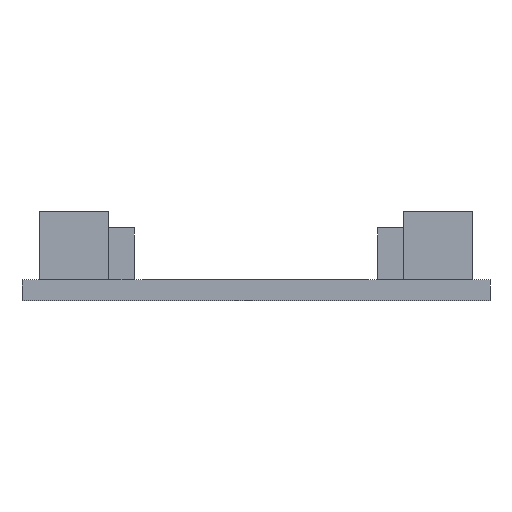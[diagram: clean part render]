
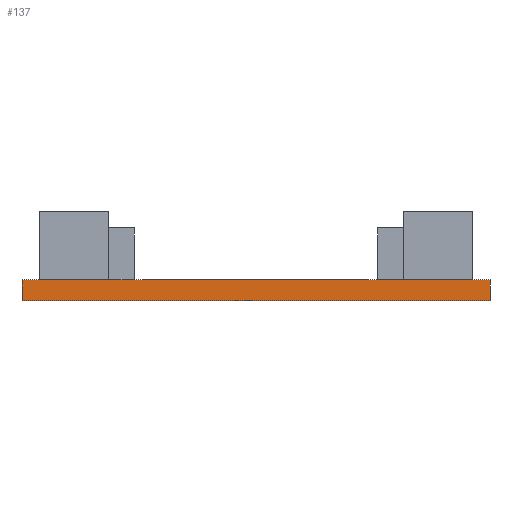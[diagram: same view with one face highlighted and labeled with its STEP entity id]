
A CAD part, front view. The second image highlights one B-rep face of the part: STEP entity #137.
In plain terms, the highlighted planar face has unit normal (0, -1, 0).
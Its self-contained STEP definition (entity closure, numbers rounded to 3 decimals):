
#21 = EDGE_CURVE('',#22,#24,#26,.T.);
#22 = VERTEX_POINT('',#23);
#23 = CARTESIAN_POINT('',(0.,0.,0.));
#24 = VERTEX_POINT('',#25);
#25 = CARTESIAN_POINT('',(0.,0.,2.4));
#26 = SURFACE_CURVE('',#27,(#31,#43),.PCURVE_S1.);
#27 = LINE('',#28,#29);
#28 = CARTESIAN_POINT('',(0.,0.,0.));
#29 = VECTOR('',#30,1.);
#30 = DIRECTION('',(0.,0.,1.));
#31 = PCURVE('',#32,#37);
#32 = PLANE('',#33);
#33 = AXIS2_PLACEMENT_3D('',#34,#35,#36);
#34 = CARTESIAN_POINT('',(0.,0.,0.));
#35 = DIRECTION('',(1.,0.,-0.));
#36 = DIRECTION('',(0.,0.,1.));
#37 = DEFINITIONAL_REPRESENTATION('',(#38),#42);
#38 = LINE('',#39,#40);
#39 = CARTESIAN_POINT('',(0.,0.));
#40 = VECTOR('',#41,1.);
#41 = DIRECTION('',(1.,0.));
#42 = ( GEOMETRIC_REPRESENTATION_CONTEXT(2) 
PARAMETRIC_REPRESENTATION_CONTEXT() REPRESENTATION_CONTEXT('2D SPACE',''
  ) );
#43 = PCURVE('',#44,#49);
#44 = PLANE('',#45);
#45 = AXIS2_PLACEMENT_3D('',#46,#47,#48);
#46 = CARTESIAN_POINT('',(0.,0.,0.));
#47 = DIRECTION('',(-0.,1.,0.));
#48 = DIRECTION('',(0.,0.,1.));
#49 = DEFINITIONAL_REPRESENTATION('',(#50),#54);
#50 = LINE('',#51,#52);
#51 = CARTESIAN_POINT('',(0.,0.));
#52 = VECTOR('',#53,1.);
#53 = DIRECTION('',(1.,0.));
#54 = ( GEOMETRIC_REPRESENTATION_CONTEXT(2) 
PARAMETRIC_REPRESENTATION_CONTEXT() REPRESENTATION_CONTEXT('2D SPACE',''
  ) );
#72 = PLANE('',#73);
#73 = AXIS2_PLACEMENT_3D('',#74,#75,#76);
#74 = CARTESIAN_POINT('',(0.,0.,0.));
#75 = DIRECTION('',(0.,0.,1.));
#76 = DIRECTION('',(1.,0.,-0.));
#126 = PLANE('',#127);
#127 = AXIS2_PLACEMENT_3D('',#128,#129,#130);
#128 = CARTESIAN_POINT('',(0.,0.,2.4));
#129 = DIRECTION('',(0.,0.,1.));
#130 = DIRECTION('',(1.,0.,-0.));
#137 = ADVANCED_FACE('',(#138),#44,.F.);
#138 = FACE_BOUND('',#139,.F.);
#139 = EDGE_LOOP('',(#140,#163,#164,#187));
#140 = ORIENTED_EDGE('',*,*,#141,.F.);
#141 = EDGE_CURVE('',#22,#142,#144,.T.);
#142 = VERTEX_POINT('',#143);
#143 = CARTESIAN_POINT('',(54.1,0.,0.));
#144 = SURFACE_CURVE('',#145,(#149,#156),.PCURVE_S1.);
#145 = LINE('',#146,#147);
#146 = CARTESIAN_POINT('',(0.,0.,0.));
#147 = VECTOR('',#148,1.);
#148 = DIRECTION('',(1.,0.,-0.));
#149 = PCURVE('',#44,#150);
#150 = DEFINITIONAL_REPRESENTATION('',(#151),#155);
#151 = LINE('',#152,#153);
#152 = CARTESIAN_POINT('',(0.,0.));
#153 = VECTOR('',#154,1.);
#154 = DIRECTION('',(0.,1.));
#155 = ( GEOMETRIC_REPRESENTATION_CONTEXT(2) 
PARAMETRIC_REPRESENTATION_CONTEXT() REPRESENTATION_CONTEXT('2D SPACE',''
  ) );
#156 = PCURVE('',#72,#157);
#157 = DEFINITIONAL_REPRESENTATION('',(#158),#162);
#158 = LINE('',#159,#160);
#159 = CARTESIAN_POINT('',(0.,0.));
#160 = VECTOR('',#161,1.);
#161 = DIRECTION('',(1.,0.));
#162 = ( GEOMETRIC_REPRESENTATION_CONTEXT(2) 
PARAMETRIC_REPRESENTATION_CONTEXT() REPRESENTATION_CONTEXT('2D SPACE',''
  ) );
#163 = ORIENTED_EDGE('',*,*,#21,.T.);
#164 = ORIENTED_EDGE('',*,*,#165,.T.);
#165 = EDGE_CURVE('',#24,#166,#168,.T.);
#166 = VERTEX_POINT('',#167);
#167 = CARTESIAN_POINT('',(54.1,0.,2.4));
#168 = SURFACE_CURVE('',#169,(#173,#180),.PCURVE_S1.);
#169 = LINE('',#170,#171);
#170 = CARTESIAN_POINT('',(0.,0.,2.4));
#171 = VECTOR('',#172,1.);
#172 = DIRECTION('',(1.,0.,-0.));
#173 = PCURVE('',#44,#174);
#174 = DEFINITIONAL_REPRESENTATION('',(#175),#179);
#175 = LINE('',#176,#177);
#176 = CARTESIAN_POINT('',(2.4,0.));
#177 = VECTOR('',#178,1.);
#178 = DIRECTION('',(0.,1.));
#179 = ( GEOMETRIC_REPRESENTATION_CONTEXT(2) 
PARAMETRIC_REPRESENTATION_CONTEXT() REPRESENTATION_CONTEXT('2D SPACE',''
  ) );
#180 = PCURVE('',#126,#181);
#181 = DEFINITIONAL_REPRESENTATION('',(#182),#186);
#182 = LINE('',#183,#184);
#183 = CARTESIAN_POINT('',(0.,0.));
#184 = VECTOR('',#185,1.);
#185 = DIRECTION('',(1.,0.));
#186 = ( GEOMETRIC_REPRESENTATION_CONTEXT(2) 
PARAMETRIC_REPRESENTATION_CONTEXT() REPRESENTATION_CONTEXT('2D SPACE',''
  ) );
#187 = ORIENTED_EDGE('',*,*,#188,.F.);
#188 = EDGE_CURVE('',#142,#166,#189,.T.);
#189 = SURFACE_CURVE('',#190,(#194,#201),.PCURVE_S1.);
#190 = LINE('',#191,#192);
#191 = CARTESIAN_POINT('',(54.1,0.,0.));
#192 = VECTOR('',#193,1.);
#193 = DIRECTION('',(0.,0.,1.));
#194 = PCURVE('',#44,#195);
#195 = DEFINITIONAL_REPRESENTATION('',(#196),#200);
#196 = LINE('',#197,#198);
#197 = CARTESIAN_POINT('',(0.,54.1));
#198 = VECTOR('',#199,1.);
#199 = DIRECTION('',(1.,0.));
#200 = ( GEOMETRIC_REPRESENTATION_CONTEXT(2) 
PARAMETRIC_REPRESENTATION_CONTEXT() REPRESENTATION_CONTEXT('2D SPACE',''
  ) );
#201 = PCURVE('',#202,#207);
#202 = PLANE('',#203);
#203 = AXIS2_PLACEMENT_3D('',#204,#205,#206);
#204 = CARTESIAN_POINT('',(54.1,0.,0.));
#205 = DIRECTION('',(1.,0.,-0.));
#206 = DIRECTION('',(0.,0.,1.));
#207 = DEFINITIONAL_REPRESENTATION('',(#208),#212);
#208 = LINE('',#209,#210);
#209 = CARTESIAN_POINT('',(0.,0.));
#210 = VECTOR('',#211,1.);
#211 = DIRECTION('',(1.,0.));
#212 = ( GEOMETRIC_REPRESENTATION_CONTEXT(2) 
PARAMETRIC_REPRESENTATION_CONTEXT() REPRESENTATION_CONTEXT('2D SPACE',''
  ) );
